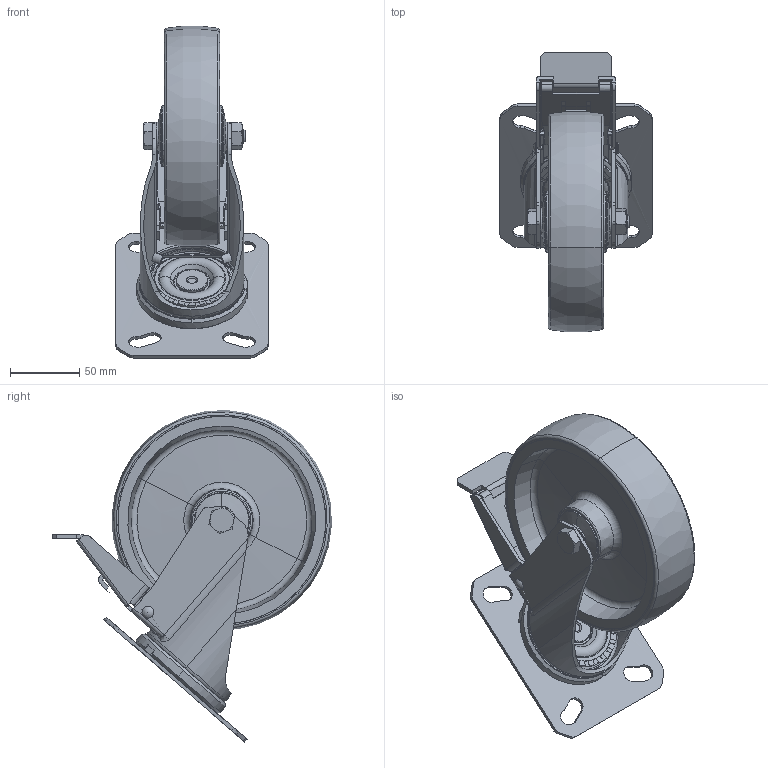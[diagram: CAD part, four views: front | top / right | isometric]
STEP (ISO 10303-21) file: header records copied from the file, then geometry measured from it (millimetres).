
FILE_DESCRIPTION (( 'STEP AP203' ), '1' );
FILE_NAME ('401160_STEP.STEP', '2012-06-04T12:41:34', ( ' ' ), ( '' ), 'SwSTEP 2.0', 'SolidWorks 2011', '' );
FILE_SCHEMA (( 'CONFIG_CONTROL_DESIGN' ));
Length unit declared in the file: millimetre
Products named in the file (1): 401160_STEP
Bounding box: 110 x 202.59 x 240.24 mm (x, y, z)
Surface area: 174080.3 mm2 (no closed solid volume)
Topology: 0 solids, 17 shells, 407 faces, 1379 edges, 974 vertices
Faces by surface type: plane 163, cylinder 109, torus 54, cone 43, bspline 36, sphere 2
Entity records: 22036 total; most frequent: CARTESIAN_POINT 10737, ORIENTED_EDGE 2260, DIRECTION 2162, EDGE_CURVE 1367, VERTEX_POINT 971, AXIS2_PLACEMENT_3D 769, VECTOR 624, LINE 624
